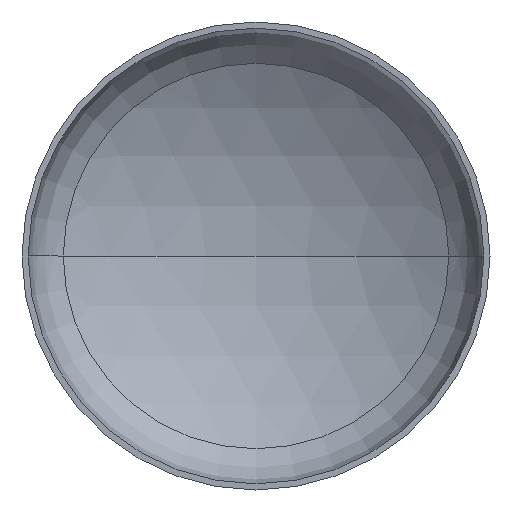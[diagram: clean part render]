
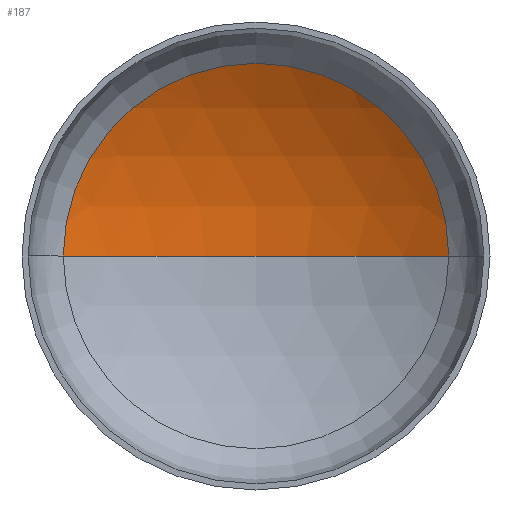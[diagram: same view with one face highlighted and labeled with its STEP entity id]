
A CAD part, front view. The second image highlights one B-rep face of the part: STEP entity #187.
In plain terms, the highlighted spherical face has radius 1760 mm.
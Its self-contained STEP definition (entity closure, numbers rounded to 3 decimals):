
#20 = AXIS2_PLACEMENT_3D ( 'NONE', #174, #162, #214 ) ;
#21 = AXIS2_PLACEMENT_3D ( 'NONE', #397, #228, #33 ) ;
#22 = AXIS2_PLACEMENT_3D ( 'NONE', #153, #154, #133 ) ;
#23 = AXIS2_PLACEMENT_3D ( 'NONE', #265, #168, #164 ) ;
#33 = DIRECTION ( 'NONE',  ( 1., 0., 0. ) ) ;
#41 = CARTESIAN_POINT ( 'NONE',  ( -906.028, 381.488, 0. ) ) ;
#60 = EDGE_CURVE ( 'NONE', #242, #256, #411, .T. ) ;
#62 = EDGE_CURVE ( 'NONE', #291, #242, #341, .T. ) ;
#63 = EDGE_CURVE ( 'NONE', #291, #256, #261, .T. ) ;
#87 = ORIENTED_EDGE ( 'NONE', *, *, #62, .T. ) ;
#104 = SPHERICAL_SURFACE ( 'NONE', #20, 1760. ) ;
#114 = CARTESIAN_POINT ( 'NONE',  ( 906.028, 381.488, 0. ) ) ;
#133 = DIRECTION ( 'NONE',  ( -1., 0., 0. ) ) ;
#153 = CARTESIAN_POINT ( 'NONE',  ( 0., -1127.39, 0. ) ) ;
#154 = DIRECTION ( 'NONE',  ( 0., 0., -1. ) ) ;
#162 = DIRECTION ( 'NONE',  ( 0., 0., -1. ) ) ;
#164 = DIRECTION ( 'NONE',  ( 1., 0., 0. ) ) ;
#168 = DIRECTION ( 'NONE',  ( 0., -1., 0. ) ) ;
#172 = FACE_OUTER_BOUND ( 'NONE', #234, .T. ) ;
#174 = CARTESIAN_POINT ( 'NONE',  ( 0., -1127.39, 0. ) ) ;
#183 = ORIENTED_EDGE ( 'NONE', *, *, #60, .T. ) ;
#187 = ADVANCED_FACE ( 'NONE', ( #172 ), #104, .F. ) ;
#214 = DIRECTION ( 'NONE',  ( -1., 0., 0. ) ) ;
#218 = ORIENTED_EDGE ( 'NONE', *, *, #63, .F. ) ;
#228 = DIRECTION ( 'NONE',  ( 0., 0., 1. ) ) ;
#234 = EDGE_LOOP ( 'NONE', ( #218, #87, #183 ) ) ;
#242 = VERTEX_POINT ( 'NONE', #114 ) ;
#256 = VERTEX_POINT ( 'NONE', #41 ) ;
#261 = CIRCLE ( 'NONE', #21, 1760. ) ;
#265 = CARTESIAN_POINT ( 'NONE',  ( 0., 381.488, 0. ) ) ;
#291 = VERTEX_POINT ( 'NONE', #393 ) ;
#341 = CIRCLE ( 'NONE', #22, 1760. ) ;
#393 = CARTESIAN_POINT ( 'NONE',  ( 0., 632.61, 0. ) ) ;
#397 = CARTESIAN_POINT ( 'NONE',  ( 0., -1127.39, 0. ) ) ;
#411 = CIRCLE ( 'NONE', #23, 906.028 ) ;
